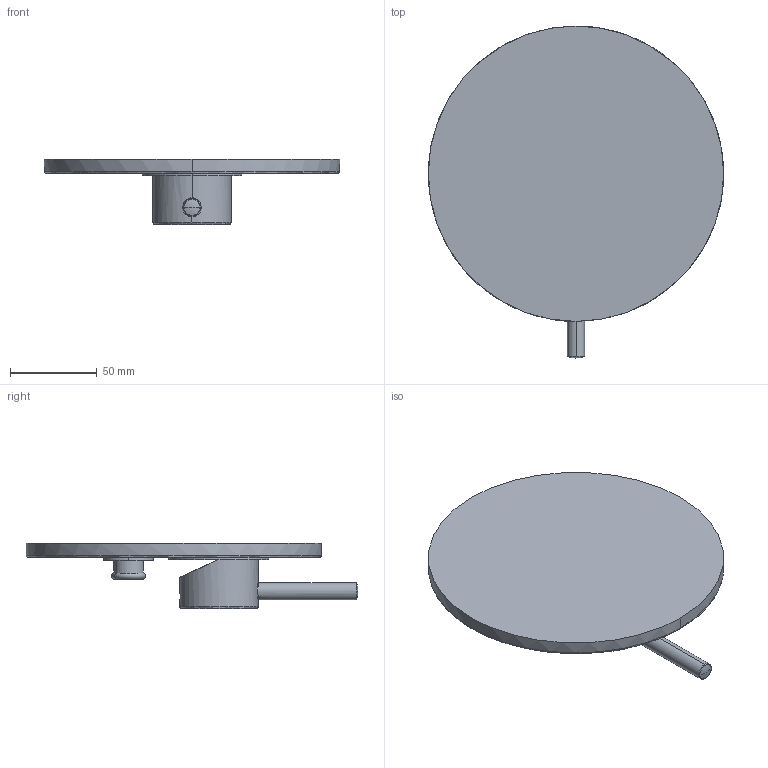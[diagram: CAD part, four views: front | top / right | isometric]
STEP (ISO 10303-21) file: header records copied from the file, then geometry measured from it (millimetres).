
FILE_DESCRIPTION (( 'STEP AP203' ), '1' );
FILE_NAME ('12102710 x architetti.STEP', '2023-10-23T13:50:48', ( '' ), ( '' ), 'SwSTEP 2.0', 'SolidWorks 2020', '' );
FILE_SCHEMA (( 'CONFIG_CONTROL_DESIGN' ));
Length unit declared in the file: millimetre
Products named in the file (1): 12102710 x architetti
Bounding box: 170 x 191 x 37.64 mm (x, y, z)
Volume: 228857.1 mm3; surface area: 59754.8 mm2
Topology: 1 solids, 1 shells, 42 faces, 100 edges, 61 vertices
Faces by surface type: cylinder 19, bspline 13, plane 6, torus 2, cone 2
Entity records: 1984 total; most frequent: CARTESIAN_POINT 993, ORIENTED_EDGE 196, DIRECTION 192, EDGE_CURVE 98, AXIS2_PLACEMENT_3D 84, VERTEX_POINT 61, CIRCLE 54, EDGE_LOOP 47
